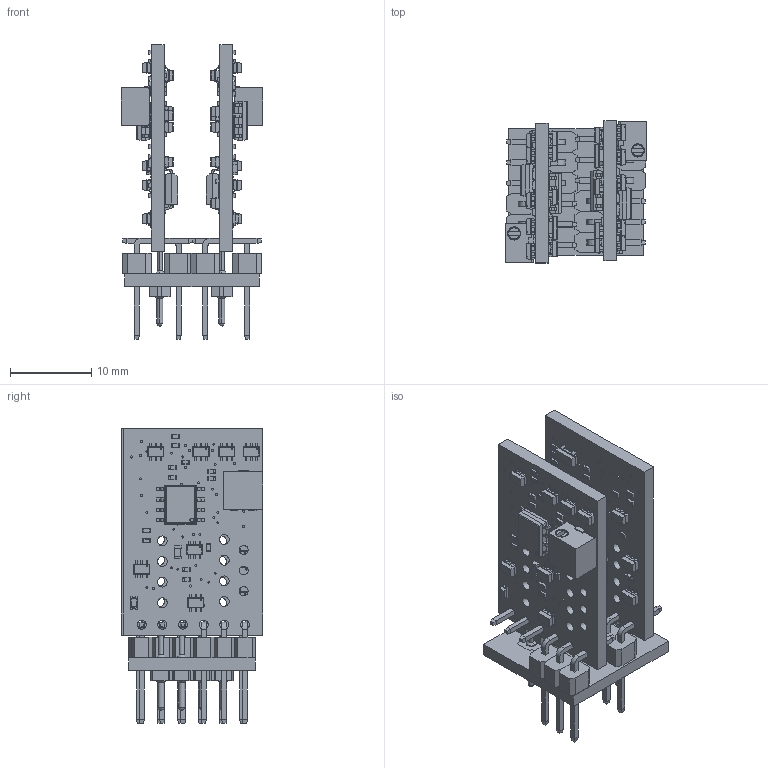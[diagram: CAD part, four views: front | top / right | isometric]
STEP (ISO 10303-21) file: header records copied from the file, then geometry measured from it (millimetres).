
FILE_DESCRIPTION(('for SolidWorks'),'2;1');
FILE_NAME('C:\www\opencart-4.1.0.3\ImagesForSite\3D_models\Bel_amp_dual_tall_20260806.step','2026-09-23T20:01:06',('B'),(''), 'Open CASCADE STEP processor 6.6','DipTrace','Unknown');
FILE_SCHEMA(('AUTOMOTIVE_DESIGN { 1 0 10303 214 1 1 1 1 }'));
Length unit declared in the file: millimetre
Products named in the file (4): PCB_Bel_amp_dual_tall_20260806; Board_Bel_amp_dual_tall_20260806; preci-dip_800-10-004-10-002101; Bel_amp_tall_vert-mount_202160806
Assembly tree (5 placements, depth 2):
  PCB_Bel_amp_dual_tall_20260806
    Board_Bel_amp_dual_tall_20260806
    preci-dip_800-10-004-10-002101  x2
    Bel_amp_tall_vert-mount_202160806  x2
Bounding box: 17.45 x 17.46 x 36.27 mm (x, y, z)
Volume: 534.1 mm3; surface area: 5601.7 mm2
Topology: 3 solids, 471 shells, 6774 faces, 16754 edges, 10920 vertices
Faces by surface type: plane 5606, cylinder 1066, cone 42, sphere 40, torus 18, bspline 2
Full cylindrical faces by diameter (mm): 0.156 x24, 0.163 x2, 0.254 x4, 0.41 x4, 1.1 x30, 1.2 x24
Entity records: 124267 total; most frequent: CARTESIAN_POINT 17418, ORIENTED_EDGE 16770, DIRECTION 16208, EDGE_CURVE 8385, LINE 7320, VECTOR 7320, VERTEX_POINT 5484, AXIS2_PLACEMENT_3D 4444
